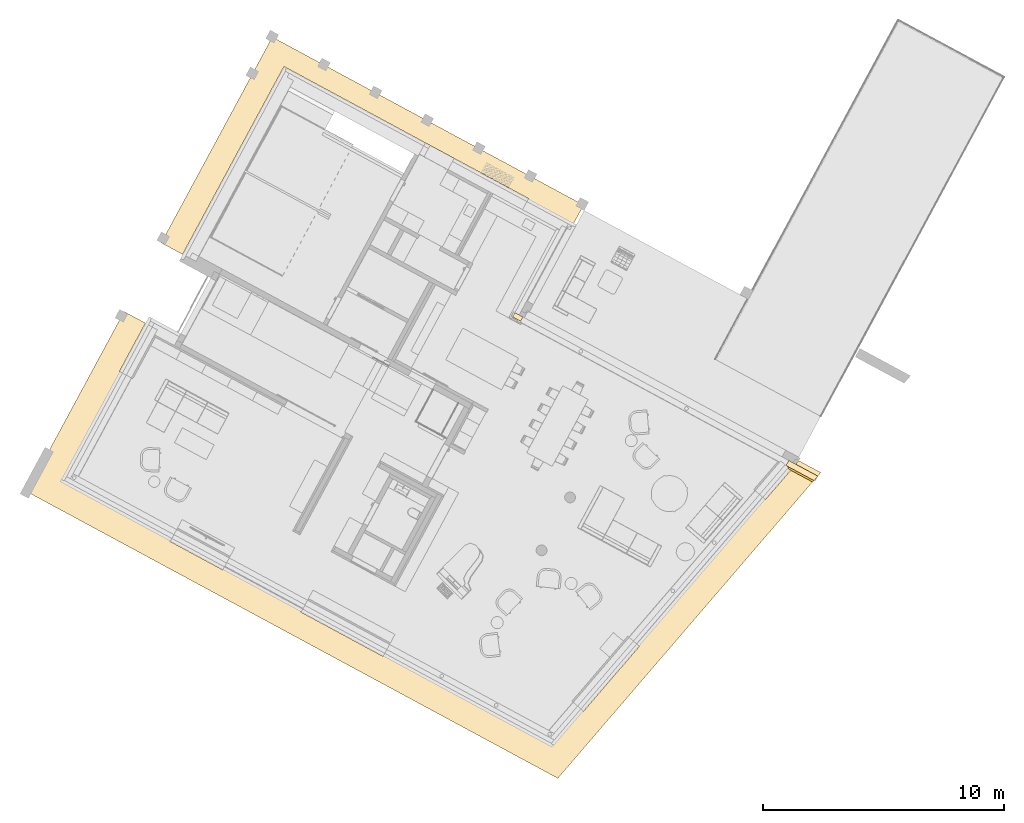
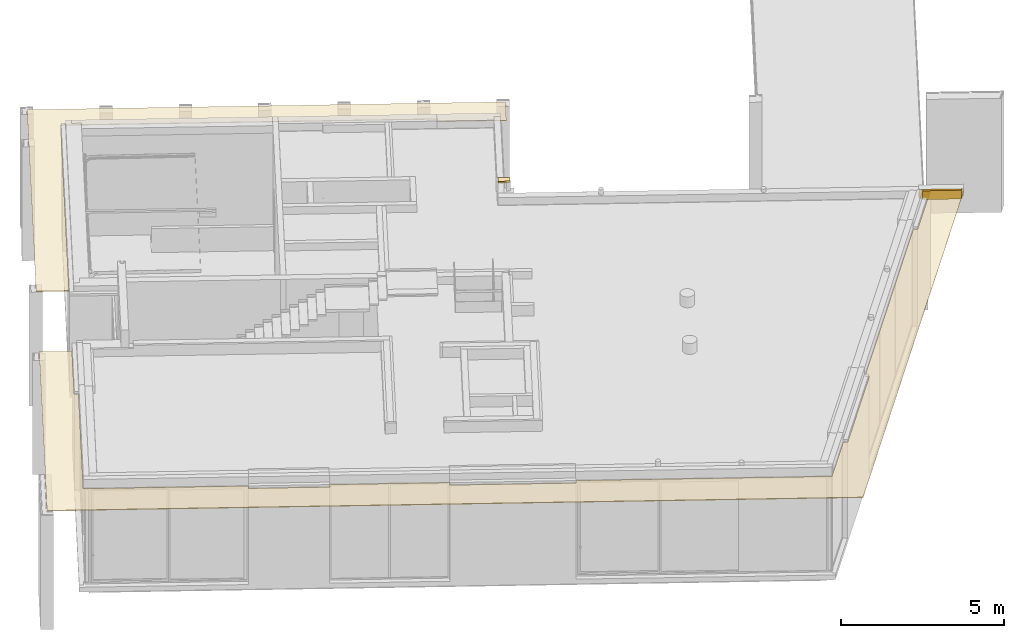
# One storey, part 23 of 52: 5 coverings.
"""IFC2X3 building model written with IfcOpenShell, lengths in metres."""

from ifc_helpers import new_model, entity, si_unit, converted_unit, derived_unit, money_unit, direction, frame, origin_with_axes, place, context, subcontext, project, spatial, faceted_brep, material, type_object, element, save


model = new_model("IFC2X3")

# Units and contexts
model_context = context("Model", 3, precision=1e-05, world=origin_with_axes(), true_north=direction((0.0, 1.0)))
body_context = subcontext(model_context, "Body", "Model", "MODEL_VIEW")
ifc_project = project(units=[si_unit("LENGTHUNIT", "METRE"), si_unit("AREAUNIT", "SQUARE_METRE"), si_unit("VOLUMEUNIT", "CUBIC_METRE"), converted_unit("PLANEANGLEUNIT", "DEGREE", entity("IfcPlaneAngleMeasure", 0.0174532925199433), si_unit("PLANEANGLEUNIT", "RADIAN"), dimensions=[0, 0, 0, 0, 0, 0, 0]), money_unit("EUR"), converted_unit("TIMEUNIT", "Year", entity("IfcTimeMeasure", 31556926.0), si_unit("TIMEUNIT", "SECOND"), dimensions=[0, 0, 1, 0, 0, 0, 0]), si_unit("MASSUNIT", "GRAM", prefix="KILO"), si_unit("THERMODYNAMICTEMPERATUREUNIT", "DEGREE_CELSIUS"), si_unit("LUMINOUSINTENSITYUNIT", "LUMEN"), si_unit("ENERGYUNIT", "JOULE", prefix="MEGA"), derived_unit("THERMALCONDUCTANCEUNIT", [(si_unit("POWERUNIT", "WATT"), 1), (si_unit("LENGTHUNIT", "METRE"), -1), (si_unit("THERMODYNAMICTEMPERATUREUNIT", "KELVIN"), -1)]), derived_unit("SPECIFICHEATCAPACITYUNIT", [(si_unit("ENERGYUNIT", "JOULE"), 1), (si_unit("MASSUNIT", "GRAM", prefix="KILO"), -1), (si_unit("THERMODYNAMICTEMPERATUREUNIT", "KELVIN"), -1)]), derived_unit("MASSDENSITYUNIT", [(si_unit("MASSUNIT", "GRAM", prefix="KILO"), 1), (si_unit("VOLUMEUNIT", "CUBIC_METRE"), -1)])], contexts=[model_context])

# Site, building, storey
site_placement = place(None, frame((-3.949935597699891, 1.740105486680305, 0.0), z_axis=(0.0, 0.0, 1.0), x_axis=(0.8799804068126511, -0.475009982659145, 0.0)))
site = spatial("IfcSite", under=ifc_project, at=site_placement, Name="Gelände", CompositionType="ELEMENT")
building_placement = place(site_placement, origin_with_axes())
building = spatial("IfcBuilding", under=site, at=building_placement, Name="Gebäude", CompositionType="ELEMENT")
storey_placement = place(building_placement, origin_with_axes())
storey = spatial("IfcBuildingStorey", under=building, at=storey_placement, Name="Erdgeschoss", CompositionType="ELEMENT", Elevation=0.0)

# Coverings
ifc_material_1 = material(Name="_SIWH - Dämmung, hart Mineralwolle")
covering_type_1 = type_object("IfcCoveringType", Name="_SIWH - Dämmung, hart Mineralwolle 60", PredefinedType="NOTDEFINED")
covering_1_placement = place(storey_placement, frame((17.16747599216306, 15.0830461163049, 4.485000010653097), z_axis=(0.0, 0.0, 1.0), x_axis=(1.0, 0.0, 0.0)))
element("IfcCovering", 1, at=covering_1_placement, inside=storey, type_object=covering_type_1, material=ifc_material_1, Name="Decke017", PredefinedType="NOTDEFINED", context=body_context, shape_type="Brep", body=[
    faceted_brep([(0.0, 0.0, 0.0), (0.0, 0.0, -0.05999999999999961), (9.694326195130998e-07, -0.200000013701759, -0.05999999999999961), (9.694326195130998e-07, -0.200000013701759, 0.0), (0.3800000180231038, 4.999213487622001e-09, 0.0), (0.3800000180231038, 4.999213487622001e-09, -0.05999999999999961), (0.3800000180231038, -0.2000000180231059, -0.05999999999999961), (0.3800000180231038, -0.2000000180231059, 0.0)], [[[0, 1, 2, 3]], [[4, 5, 1, 0]], [[2, 1, 5, 6]], [[3, 2, 6, 7]], [[4, 0, 3, 7]], [[7, 6, 5, 4]]]),
])
ifc_material_2 = material(Name="_SIWH - Abgehängte Decke Arkade")
covering_type_2 = type_object("IfcCoveringType", Name="_SIWH - Abgehängte Decke Arkade 25", PredefinedType="NOTDEFINED")
covering_2_placement = place(storey_placement, frame((2.84748991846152, -1.110011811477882, 3.615000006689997), z_axis=(0.0, 0.0, 1.0), x_axis=(1.0, 0.0, 0.0)))
element("IfcCovering", 2, at=covering_2_placement, inside=storey, type_object=covering_type_2, material=ifc_material_2, Name="Decke016", PredefinedType="NOTDEFINED", context=body_context, shape_type="Brep", body=[
    faceted_brep([(0.0, 0.0, 0.0), (0.0, 0.0, -0.02499999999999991), (25.08927658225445, 0.0, -0.02499999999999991), (25.08927658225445, 0.0, 0.0), (0.0, 8.51304605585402, 0.0), (0.0, 8.51304605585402, -0.02499999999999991), (1.009998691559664, 8.51304605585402, -0.02499999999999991), (1.009998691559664, 6.220012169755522, -0.02499999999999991), (1.145039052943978, 6.220012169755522, -0.02499999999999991), (1.145039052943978, 1.145006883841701, -0.02499999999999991), (6.219991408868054, 1.14500394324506, -0.02499999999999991), (6.219991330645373, 1.01000535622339, -0.02499999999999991), (8.72249899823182, 1.010003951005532, -0.02499999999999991), (8.722499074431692, 1.145003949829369, -0.02499999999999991), (12.4024988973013, 1.145001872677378, -0.02499999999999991), (12.40249882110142, 1.010001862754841, -0.02499999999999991), (16.29737085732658, 1.01000397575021, -0.02499999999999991), (16.29737078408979, 1.145000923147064, -0.02499999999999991), (24.16736359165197, 1.145005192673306, -0.02499999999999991), (24.56888980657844, 2.983413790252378, -0.02499999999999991), (24.70078280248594, 2.954607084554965, -0.02499999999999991), (25.46512695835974, 6.454218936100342, -0.02499999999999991), (25.33323604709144, 6.483024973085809, -0.02499999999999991), (27.04475969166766, 14.31938279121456, -0.02499999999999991), (27.17665058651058, 14.29057675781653, -0.02499999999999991), (27.63366856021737, 16.38305792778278, -0.02499999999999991), (28.66747456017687, 16.38305792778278, -0.02499999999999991), (28.66747456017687, 16.38305792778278, 0.0), (27.63366856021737, 16.38305792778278, 0.0), (27.17665058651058, 14.29057675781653, 0.0), (27.04475969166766, 14.31938279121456, 0.0), (25.33323604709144, 6.483024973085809, 0.0), (25.46512695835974, 6.454218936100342, 0.0), (24.70078280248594, 2.954607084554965, 0.0), (24.56888980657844, 2.983413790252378, 0.0), (24.16736359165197, 1.145005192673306, 0.0), (16.29737078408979, 1.145000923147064, 0.0), (16.29737085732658, 1.01000397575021, 0.0), (12.40249882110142, 1.010001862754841, 0.0), (12.4024988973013, 1.145001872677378, 0.0), (8.722499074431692, 1.145003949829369, 0.0), (8.72249899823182, 1.010003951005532, 0.0), (6.219991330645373, 1.01000535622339, 0.0), (6.219991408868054, 1.14500394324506, 0.0), (1.145039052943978, 1.145006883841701, 0.0), (1.145039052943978, 6.220012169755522, 0.0), (1.009998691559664, 6.220012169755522, 0.0), (1.009998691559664, 8.51304605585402, 0.0)], [[[0, 1, 2, 3]], [[4, 5, 1, 0]], [[2, 1, 5, 6, 7, 8, 9, 10, 11, 12, 13, 14, 15, 16, 17, 18, 19, 20, 21, 22, 23, 24, 25, 26]], [[3, 2, 26, 27]], [[4, 0, 3, 27, 28, 29, 30, 31, 32, 33, 34, 35, 36, 37, 38, 39, 40, 41, 42, 43, 44, 45, 46, 47]], [[47, 6, 5, 4]], [[46, 7, 6, 47]], [[45, 8, 7, 46]], [[44, 9, 8, 45]], [[43, 10, 9, 44]], [[42, 11, 10, 43]], [[41, 12, 11, 42]], [[40, 13, 12, 41]], [[39, 14, 13, 40]], [[38, 15, 14, 39]], [[37, 16, 15, 38]], [[36, 17, 16, 37]], [[35, 18, 17, 36]], [[34, 19, 18, 35]], [[33, 20, 19, 34]], [[32, 21, 20, 33]], [[31, 22, 21, 32]], [[30, 23, 22, 31]], [[29, 24, 23, 30]], [[28, 25, 24, 29]], [[27, 26, 25, 28]]]),
])
covering_3_placement = place(storey_placement, frame((2.84748991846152, 10.64780020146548, 3.615000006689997), z_axis=(0.0, 0.0, 1.0), x_axis=(1.0, 0.0, 0.0)))
element("IfcCovering", 3, at=covering_3_placement, inside=storey, type_object=covering_type_2, material=ifc_material_2, Name="Decke015", PredefinedType="NOTDEFINED", context=body_context, shape_type="Brep", body=[
    faceted_brep([(0.0, 0.0, 0.0), (0.0, 0.0, -0.02499999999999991), (1.009998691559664, 0.0, -0.02499999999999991), (1.009998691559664, 0.0, 0.0), (0.0, 9.727481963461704, 0.0), (0.0, 9.727481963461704, -0.02499999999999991), (14.70997828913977, 9.727481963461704, -0.02499999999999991), (14.70997828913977, 8.742500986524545, -0.02499999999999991), (12.57498098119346, 8.742489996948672, -0.02499999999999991), (12.57498028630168, 8.877489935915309, -0.02499999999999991), (1.009998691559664, 8.877500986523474, -0.02499999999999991), (1.009998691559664, 8.877500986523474, 0.0), (12.57498028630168, 8.877489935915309, 0.0), (12.57498098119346, 8.742489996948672, 0.0), (14.70997828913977, 8.742500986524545, 0.0), (14.70997828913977, 9.727481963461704, 0.0)], [[[0, 1, 2, 3]], [[4, 5, 1, 0]], [[2, 1, 5, 6, 7, 8, 9, 10]], [[3, 2, 10, 11]], [[4, 0, 3, 11, 12, 13, 14, 15]], [[15, 6, 5, 4]], [[14, 7, 6, 15]], [[13, 8, 7, 14]], [[12, 9, 8, 13]], [[11, 10, 9, 12]]]),
])
ifc_material_3 = material(Name="_SIWH - Dämmung, weich Mineralwolle")
covering_type_3 = type_object("IfcCoveringType", Name="_SIWH - WA | Dämmung 8 | 8cm 80", PredefinedType="NOTDEFINED")
covering_4_placement = place(storey_placement, frame((30.05457861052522, 14.84304611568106, 3.62), z_axis=(0.0, 0.0, 1.0), x_axis=(1.0, 0.0, 0.0)))
element("IfcCovering", 4, at=covering_4_placement, inside=storey, type_object=covering_type_3, material=ifc_material_3, Name="A-Wand036", PredefinedType="NOTDEFINED", context=body_context, shape_type="Brep", body=[
    faceted_brep([(1.359233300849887, -0.08000000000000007, 0.330000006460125), (1.376705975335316, 0.0, 0.3300000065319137), (0.05241556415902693, 0.0, 0.3300000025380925), (0.1782423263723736, -0.02748169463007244, 0.3300000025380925), (0.1667718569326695, -0.08000000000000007, 0.3300000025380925), (1.376705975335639, 0.0, 0.0), (1.359233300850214, -0.08000000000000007, 0.0), (0.05241556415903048, 0.0, 0.0), (0.1782423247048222, -0.02748169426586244, 0.0), (0.1782423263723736, -0.02748169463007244, 0.07999999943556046), (0.1667718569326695, -0.08000000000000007, 0.07999999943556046), (0.1667718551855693, -0.08000000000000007, 0.0)], [[[0, 1, 2, 3, 4]], [[5, 1, 0, 6]], [[1, 5, 7, 2]], [[2, 7, 8, 9, 3]], [[3, 9, 10, 4]], [[6, 0, 4, 10, 11]], [[5, 6, 11, 8, 7]], [[9, 8, 11, 10]]]),
])
covering_type_4 = type_object("IfcCoveringType", Name="_SIWH - DE | Dämmung 8 | 8cm 80", PredefinedType="NOTDEFINED")
covering_5_placement = place(storey_placement, frame((30.0545799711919, 14.84304610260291, 3.7), z_axis=(0.0, 0.0, 1.0), x_axis=(1.0, 0.0, 0.0)))
element("IfcCovering", 5, at=covering_5_placement, inside=storey, type_object=covering_type_4, material=ifc_material_3, Name="Decke018", PredefinedType="NOTDEFINED", context=body_context, shape_type="Brep", body=[
    faceted_brep([(1.429122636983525, 0.2400000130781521, -0.08000000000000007), (0.05241426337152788, 0.239994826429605, -0.0799999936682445), (0.05241426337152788, 0.239994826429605, 0.0), (1.429122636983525, 0.2400000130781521, 0.0), (1.376704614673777, 1.307815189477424e-08, -0.08000000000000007), (0.05241426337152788, 0.0, -0.0799999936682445), (0.05241426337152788, 0.0, 0.0), (1.376704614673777, 1.307815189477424e-08, 0.0)], [[[0, 1, 2, 3]], [[4, 5, 1, 0]], [[5, 6, 2, 1]], [[3, 2, 6, 7]], [[4, 0, 3, 7]], [[7, 6, 5, 4]]]),
])

save(model, "model.ifc")
